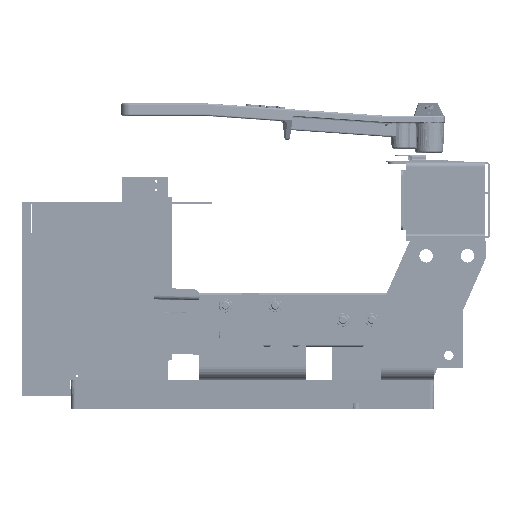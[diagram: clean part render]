
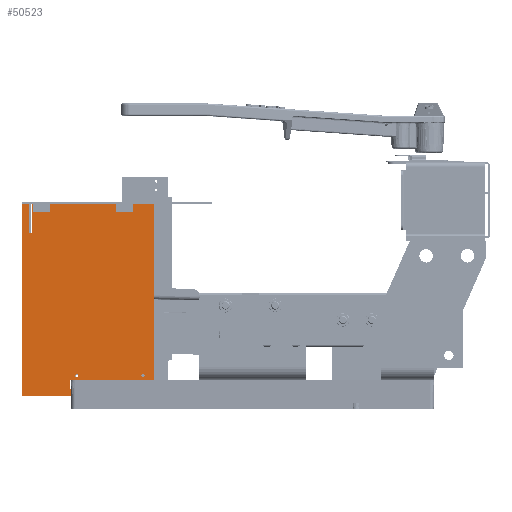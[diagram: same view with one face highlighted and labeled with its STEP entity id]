
A CAD part, left-side view. The second image highlights one B-rep face of the part: STEP entity #50523.
In plain terms, the highlighted planar face has unit normal (-1, 0, 0) as drawn and (0, 0, -1) by its records, which use the part's own axes.
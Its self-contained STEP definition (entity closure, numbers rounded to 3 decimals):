
#2657=FACE_BOUND('',#11050,.T.);
#2658=FACE_BOUND('',#11051,.T.);
#2659=FACE_BOUND('',#11052,.T.);
#2660=FACE_BOUND('',#11053,.T.);
#4455=CIRCLE('',#55761,0.097);
#4457=CIRCLE('',#55764,0.097);
#4459=CIRCLE('',#55767,0.097);
#4461=CIRCLE('',#55770,0.097);
#7748=FACE_OUTER_BOUND('',#11049,.T.);
#11049=EDGE_LOOP('',(#43699,#43700,#43701,#43702,#43703,#43704,#43705,#43706,
#43707,#43708,#43709,#43710));
#11050=EDGE_LOOP('',(#43711));
#11051=EDGE_LOOP('',(#43712));
#11052=EDGE_LOOP('',(#43713));
#11053=EDGE_LOOP('',(#43714));
#15338=LINE('',#88024,#19711);
#15342=LINE('',#88032,#19715);
#15345=LINE('',#88038,#19718);
#15348=LINE('',#88044,#19721);
#15351=LINE('',#88050,#19724);
#15354=LINE('',#88056,#19727);
#15357=LINE('',#88062,#19730);
#15360=LINE('',#88068,#19733);
#15363=LINE('',#88074,#19736);
#15366=LINE('',#88080,#19739);
#15369=LINE('',#88086,#19742);
#15372=LINE('',#88091,#19745);
#19711=VECTOR('',#67775,0.394);
#19715=VECTOR('',#67781,0.394);
#19718=VECTOR('',#67786,0.394);
#19721=VECTOR('',#67791,0.394);
#19724=VECTOR('',#67796,0.394);
#19727=VECTOR('',#67801,0.394);
#19730=VECTOR('',#67806,0.394);
#19733=VECTOR('',#67811,0.394);
#19736=VECTOR('',#67816,0.394);
#19739=VECTOR('',#67821,0.394);
#19742=VECTOR('',#67826,0.394);
#19745=VECTOR('',#67831,0.394);
#24233=VERTEX_POINT('',#87998);
#24235=VERTEX_POINT('',#88004);
#24237=VERTEX_POINT('',#88010);
#24239=VERTEX_POINT('',#88016);
#24241=VERTEX_POINT('',#88022);
#24242=VERTEX_POINT('',#88023);
#24245=VERTEX_POINT('',#88031);
#24247=VERTEX_POINT('',#88037);
#24249=VERTEX_POINT('',#88043);
#24251=VERTEX_POINT('',#88049);
#24253=VERTEX_POINT('',#88055);
#24255=VERTEX_POINT('',#88061);
#24257=VERTEX_POINT('',#88067);
#24259=VERTEX_POINT('',#88073);
#24261=VERTEX_POINT('',#88079);
#24263=VERTEX_POINT('',#88085);
#30862=EDGE_CURVE('',#24233,#24233,#4455,.T.);
#30865=EDGE_CURVE('',#24235,#24235,#4457,.T.);
#30868=EDGE_CURVE('',#24237,#24237,#4459,.T.);
#30871=EDGE_CURVE('',#24239,#24239,#4461,.T.);
#30874=EDGE_CURVE('',#24241,#24242,#15338,.T.);
#30878=EDGE_CURVE('',#24245,#24241,#15342,.T.);
#30881=EDGE_CURVE('',#24247,#24245,#15345,.T.);
#30884=EDGE_CURVE('',#24249,#24247,#15348,.T.);
#30887=EDGE_CURVE('',#24251,#24249,#15351,.T.);
#30890=EDGE_CURVE('',#24253,#24251,#15354,.T.);
#30893=EDGE_CURVE('',#24255,#24253,#15357,.T.);
#30896=EDGE_CURVE('',#24257,#24255,#15360,.T.);
#30899=EDGE_CURVE('',#24259,#24257,#15363,.T.);
#30902=EDGE_CURVE('',#24261,#24259,#15366,.T.);
#30905=EDGE_CURVE('',#24263,#24261,#15369,.T.);
#30908=EDGE_CURVE('',#24242,#24263,#15372,.T.);
#43699=ORIENTED_EDGE('',*,*,#30908,.F.);
#43700=ORIENTED_EDGE('',*,*,#30874,.F.);
#43701=ORIENTED_EDGE('',*,*,#30878,.F.);
#43702=ORIENTED_EDGE('',*,*,#30881,.F.);
#43703=ORIENTED_EDGE('',*,*,#30884,.F.);
#43704=ORIENTED_EDGE('',*,*,#30887,.F.);
#43705=ORIENTED_EDGE('',*,*,#30890,.F.);
#43706=ORIENTED_EDGE('',*,*,#30893,.F.);
#43707=ORIENTED_EDGE('',*,*,#30896,.F.);
#43708=ORIENTED_EDGE('',*,*,#30899,.F.);
#43709=ORIENTED_EDGE('',*,*,#30902,.F.);
#43710=ORIENTED_EDGE('',*,*,#30905,.F.);
#43711=ORIENTED_EDGE('',*,*,#30862,.T.);
#43712=ORIENTED_EDGE('',*,*,#30865,.T.);
#43713=ORIENTED_EDGE('',*,*,#30868,.T.);
#43714=ORIENTED_EDGE('',*,*,#30871,.T.);
#48089=PLANE('',#55785);
#50523=ADVANCED_FACE('',(#7748,#2657,#2658,#2659,#2660),#48089,.F.);
#55761=AXIS2_PLACEMENT_3D('',#87999,#67747,#67748);
#55764=AXIS2_PLACEMENT_3D('',#88005,#67754,#67755);
#55767=AXIS2_PLACEMENT_3D('',#88011,#67761,#67762);
#55770=AXIS2_PLACEMENT_3D('',#88017,#67768,#67769);
#55785=AXIS2_PLACEMENT_3D('',#88094,#67835,#67836);
#67747=DIRECTION('center_axis',(0.,0.,1.));
#67748=DIRECTION('ref_axis',(-1.,0.,0.));
#67754=DIRECTION('center_axis',(0.,0.,1.));
#67755=DIRECTION('ref_axis',(-1.,0.,0.));
#67761=DIRECTION('center_axis',(0.,0.,1.));
#67762=DIRECTION('ref_axis',(-1.,0.,0.));
#67768=DIRECTION('center_axis',(0.,0.,1.));
#67769=DIRECTION('ref_axis',(-1.,0.,0.));
#67775=DIRECTION('',(1.,0.,0.));
#67781=DIRECTION('',(0.,1.,0.));
#67786=DIRECTION('',(1.,0.,0.));
#67791=DIRECTION('',(0.,-1.,0.));
#67796=DIRECTION('',(-1.,0.,0.));
#67801=DIRECTION('',(0.,-1.,0.));
#67806=DIRECTION('',(1.,0.,0.));
#67811=DIRECTION('',(0.,-1.,0.));
#67816=DIRECTION('',(-1.,0.,0.));
#67821=DIRECTION('',(0.,1.,0.));
#67826=DIRECTION('',(1.,0.,0.));
#67831=DIRECTION('',(0.,-1.,0.));
#67835=DIRECTION('center_axis',(0.,0.,1.));
#67836=DIRECTION('ref_axis',(1.,0.,0.));
#87998=CARTESIAN_POINT('',(0.347,2.,0.));
#87999=CARTESIAN_POINT('Origin',(0.25,2.,0.));
#88004=CARTESIAN_POINT('',(0.347,7.,0.));
#88005=CARTESIAN_POINT('Origin',(0.25,7.,0.));
#88010=CARTESIAN_POINT('',(10.472,0.688,0.));
#88011=CARTESIAN_POINT('Origin',(10.375,0.688,0.));
#88016=CARTESIAN_POINT('',(10.472,4.688,0.));
#88017=CARTESIAN_POINT('Origin',(10.375,4.688,0.));
#88022=CARTESIAN_POINT('',(10.625,5.094,0.));
#88023=CARTESIAN_POINT('',(11.156,5.094,0.));
#88024=CARTESIAN_POINT('',(10.625,5.094,0.));
#88031=CARTESIAN_POINT('',(10.625,0.,0.));
#88032=CARTESIAN_POINT('',(10.625,0.,0.));
#88037=CARTESIAN_POINT('',(0.,0.,0.));
#88038=CARTESIAN_POINT('',(0.,0.,0.));
#88043=CARTESIAN_POINT('',(0.,7.422,0.));
#88044=CARTESIAN_POINT('',(0.,7.422,0.));
#88049=CARTESIAN_POINT('',(1.75,7.422,0.));
#88050=CARTESIAN_POINT('',(1.75,7.422,0.));
#88055=CARTESIAN_POINT('',(1.75,7.578,0.));
#88056=CARTESIAN_POINT('',(1.75,7.578,0.));
#88061=CARTESIAN_POINT('',(0.,7.578,0.));
#88062=CARTESIAN_POINT('',(0.,7.578,0.));
#88067=CARTESIAN_POINT('',(0.,8.,0.));
#88068=CARTESIAN_POINT('',(0.,8.,0.));
#88073=CARTESIAN_POINT('',(11.625,8.,0.));
#88074=CARTESIAN_POINT('',(11.625,8.,0.));
#88079=CARTESIAN_POINT('',(11.625,4.719,0.));
#88080=CARTESIAN_POINT('',(11.625,4.719,0.));
#88085=CARTESIAN_POINT('',(11.156,4.719,0.));
#88086=CARTESIAN_POINT('',(11.156,4.719,0.));
#88091=CARTESIAN_POINT('',(11.156,5.094,0.));
#88094=CARTESIAN_POINT('Origin',(5.401,4.41,0.));
